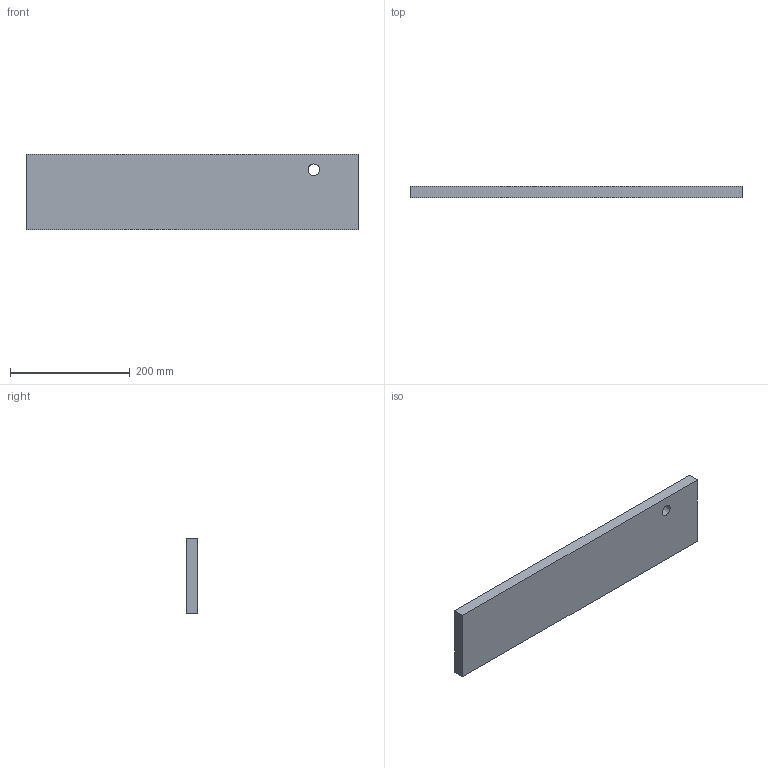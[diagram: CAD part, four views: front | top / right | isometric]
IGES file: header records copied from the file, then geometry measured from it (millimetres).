
Start section:  PTC IGES file: l5_23w_keyboard.igs
Global section: file name: l5_23w_keyboard.igs; native system: Creo Parametric by Parametric Technology Corporation; preprocessor: 2014310; author: apappas; organization: Unknown; date: 20150316.070934; units: inch
Bounding box: 553.85 x 19.05 x 125.41 mm (x, y, z)
Volume: 1290883.5 mm3; surface area: 169432.3 mm2
Topology: 1 solids, 1 shells, 26 faces, 54 edges, 36 vertices
Faces by surface type: bspline 26
